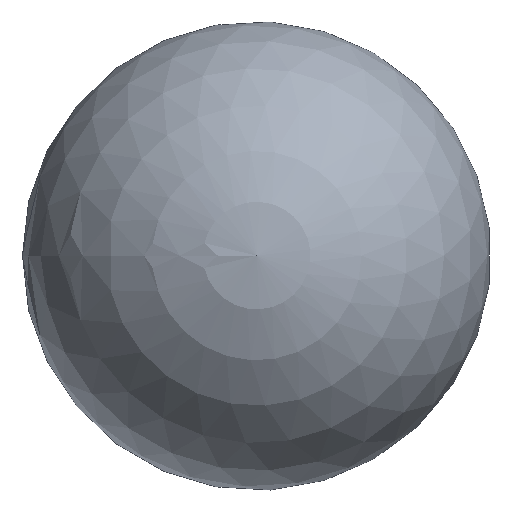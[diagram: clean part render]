
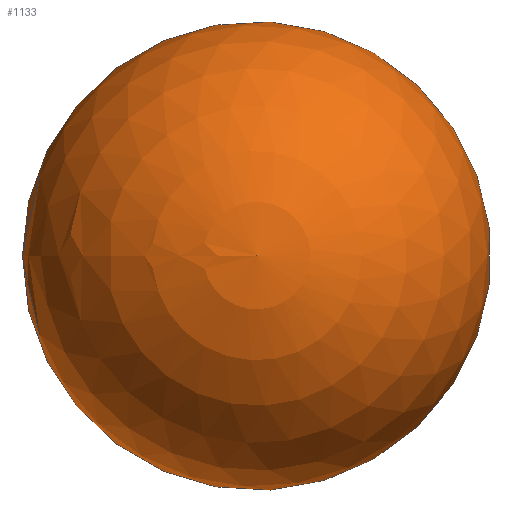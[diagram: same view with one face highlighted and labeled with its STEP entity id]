
A CAD part, top view. The second image highlights one B-rep face of the part: STEP entity #1133.
In plain terms, the highlighted spherical face has radius 300 mm.
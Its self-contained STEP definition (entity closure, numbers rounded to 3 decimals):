
#20=SPHERICAL_SURFACE('',#1273,300.);
#130=FACE_OUTER_BOUND('',#197,.T.);
#197=EDGE_LOOP('',(#1024,#1025,#1026));
#248=CIRCLE('',#1272,40.);
#249=CIRCLE('',#1274,300.);
#533=VERTEX_POINT('',#1974);
#534=VERTEX_POINT('',#1978);
#697=EDGE_CURVE('',#533,#533,#248,.T.);
#698=EDGE_CURVE('',#534,#533,#249,.T.);
#1024=ORIENTED_EDGE('',*,*,#697,.T.);
#1025=ORIENTED_EDGE('',*,*,#698,.F.);
#1026=ORIENTED_EDGE('',*,*,#698,.T.);
#1133=ADVANCED_FACE('',(#130),#20,.T.);
#1272=AXIS2_PLACEMENT_3D('',#1976,#1593,#1594);
#1273=AXIS2_PLACEMENT_3D('',#1977,#1595,#1596);
#1274=AXIS2_PLACEMENT_3D('',#1979,#1597,#1598);
#1593=DIRECTION('center_axis',(0.,0.,1.));
#1594=DIRECTION('ref_axis',(1.,0.,0.));
#1595=DIRECTION('center_axis',(0.,0.,1.));
#1596=DIRECTION('ref_axis',(1.,0.,0.));
#1597=DIRECTION('center_axis',(0.,-1.,0.));
#1598=DIRECTION('ref_axis',(-1.,0.,0.));
#1974=CARTESIAN_POINT('',(-40.,0.,0.));
#1976=CARTESIAN_POINT('Origin',(0.,0.,0.));
#1977=CARTESIAN_POINT('Origin',(0.,0.,297.321));
#1978=CARTESIAN_POINT('',(0.,0.,597.321));
#1979=CARTESIAN_POINT('Origin',(0.,0.,297.321));
